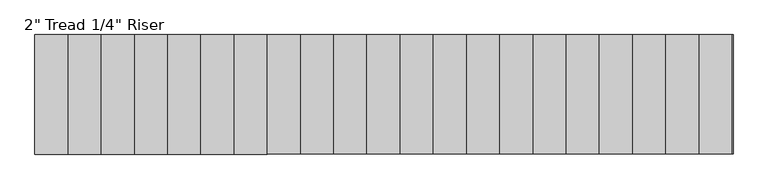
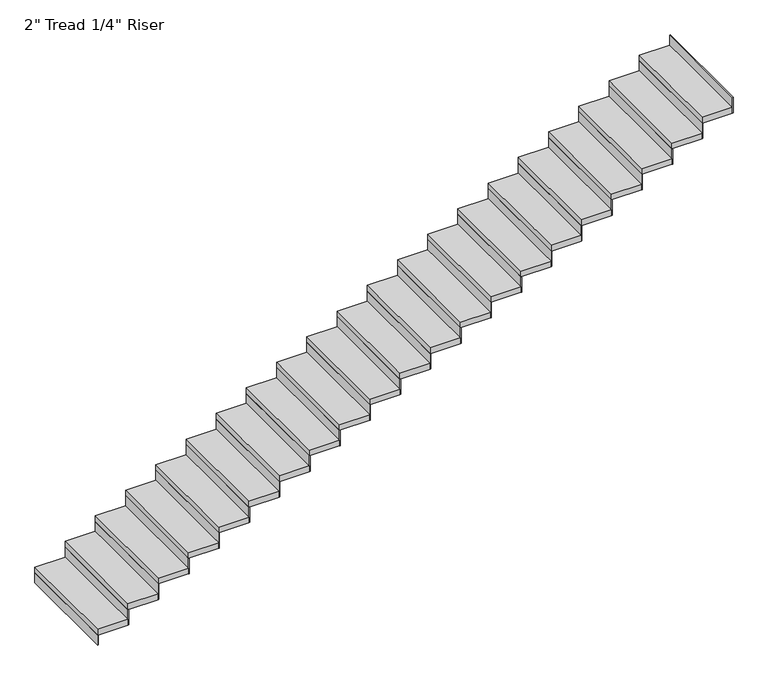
"""IFC4 building model written with IfcOpenShell, lengths in millimetres: stair flight geometry."""

from ifc_helpers import new_model, si_unit, frame, origin, origin_with_axes, place, context, project, spatial, polyline, outline, extrude, source, transform, mapped, element, save


def stair_flight_8a9467b6(model_context):
    return source(origin(), model_context, "Body", "SweptSolid", [
        extrude(outline(polyline([(-14491.9069957, 52176.6739583), (-14498.2569957, 52176.6739583), (-14498.2569957, 53091.0739583), (-14491.9069957, 53091.0739583), (-14491.9069957, 52176.6739583)])), origin_with_axes(), (0.0, 0.0, 1.0), 87.7454545),
        extrude(outline(polyline([(-14244.2569957, 53091.0739583), (-14244.2569957, 52176.6739583), (-14498.2569957, 52176.6739583), (-14498.2569957, 53091.0739583), (-14244.2569957, 53091.0739583)])), frame((0.0, 0.0, 87.7454545), z_axis=(0.0, 0.0, 1.0), x_axis=(1.0, 0.0, 0.0)), (0.0, 0.0, 1.0), 50.8),
        extrude(outline(polyline([(-14237.9069957, 52176.6739583), (-14244.2569957, 52176.6739583), (-14244.2569957, 53091.0739583), (-14237.9069957, 53091.0739583), (-14237.9069957, 52176.6739583)])), frame((0.0, 0.0, 87.7454545), z_axis=(0.0, 0.0, 1.0), x_axis=(1.0, 0.0, 0.0)), (0.0, 0.0, 1.0), 138.5454545),
        extrude(outline(polyline([(-13990.2569957, 53091.0739583), (-13990.2569957, 52176.6739583), (-14244.2569957, 52176.6739583), (-14244.2569957, 53091.0739583), (-13990.2569957, 53091.0739583)])), frame((0.0, 0.0, 226.2909091), z_axis=(0.0, 0.0, 1.0), x_axis=(1.0, 0.0, 0.0)), (0.0, 0.0, 1.0), 50.8),
        extrude(outline(polyline([(-13983.9069957, 52176.6739583), (-13990.2569957, 52176.6739583), (-13990.2569957, 53091.0739583), (-13983.9069957, 53091.0739583), (-13983.9069957, 52176.6739583)])), frame((0.0, 0.0, 226.2909091), z_axis=(0.0, 0.0, 1.0), x_axis=(1.0, 0.0, 0.0)), (0.0, 0.0, 1.0), 138.5454545),
        extrude(outline(polyline([(-13736.2569957, 53091.0739583), (-13736.2569957, 52176.6739583), (-13990.2569957, 52176.6739583), (-13990.2569957, 53091.0739583), (-13736.2569957, 53091.0739583)])), frame((0.0, 0.0, 364.8363636), z_axis=(0.0, 0.0, 1.0), x_axis=(1.0, 0.0, 0.0)), (0.0, 0.0, 1.0), 50.8),
        extrude(outline(polyline([(-13729.9069957, 52176.6739583), (-13736.2569957, 52176.6739583), (-13736.2569957, 53091.0739583), (-13729.9069957, 53091.0739583), (-13729.9069957, 52176.6739583)])), frame((0.0, 0.0, 364.8363636), z_axis=(0.0, 0.0, 1.0), x_axis=(1.0, 0.0, 0.0)), (0.0, 0.0, 1.0), 138.5454545),
        extrude(outline(polyline([(-13482.2569957, 53091.0739583), (-13482.2569957, 52176.6739583), (-13736.2569957, 52176.6739583), (-13736.2569957, 53091.0739583), (-13482.2569957, 53091.0739583)])), frame((0.0, 0.0, 503.3818182), z_axis=(0.0, 0.0, 1.0), x_axis=(1.0, 0.0, 0.0)), (0.0, 0.0, 1.0), 50.8),
        extrude(outline(polyline([(-13475.9069957, 52176.6739583), (-13482.2569957, 52176.6739583), (-13482.2569957, 53091.0739583), (-13475.9069957, 53091.0739583), (-13475.9069957, 52176.6739583)])), frame((0.0, 0.0, 503.3818182), z_axis=(0.0, 0.0, 1.0), x_axis=(1.0, 0.0, 0.0)), (0.0, 0.0, 1.0), 138.5454545),
        extrude(outline(polyline([(-13228.2569957, 53091.0739583), (-13228.2569957, 52176.6739583), (-13482.2569957, 52176.6739583), (-13482.2569957, 53091.0739583), (-13228.2569957, 53091.0739583)])), frame((0.0, 0.0, 641.9272727), z_axis=(0.0, 0.0, 1.0), x_axis=(1.0, 0.0, 0.0)), (0.0, 0.0, 1.0), 50.8),
        extrude(outline(polyline([(-13221.9069957, 52176.6739583), (-13228.2569957, 52176.6739583), (-13228.2569957, 53091.0739583), (-13221.9069957, 53091.0739583), (-13221.9069957, 52176.6739583)])), frame((0.0, 0.0, 641.9272727), z_axis=(0.0, 0.0, 1.0), x_axis=(1.0, 0.0, 0.0)), (0.0, 0.0, 1.0), 138.5454545),
        extrude(outline(polyline([(-12974.2569957, 53091.0739583), (-12974.2569957, 52176.6739583), (-13228.2569957, 52176.6739583), (-13228.2569957, 53091.0739583), (-12974.2569957, 53091.0739583)])), frame((0.0, 0.0, 780.4727273), z_axis=(0.0, 0.0, 1.0), x_axis=(1.0, 0.0, 0.0)), (0.0, 0.0, 1.0), 50.8),
        extrude(outline(polyline([(-12967.9069957, 52176.6739583), (-12974.2569957, 52176.6739583), (-12974.2569957, 53091.0739583), (-12967.9069957, 53091.0739583), (-12967.9069957, 52176.6739583)])), frame((0.0, 0.0, 780.4727273), z_axis=(0.0, 0.0, 1.0), x_axis=(1.0, 0.0, 0.0)), (0.0, 0.0, 1.0), 138.5454545),
        extrude(outline(polyline([(-12720.2569957, 53091.0739583), (-12720.2569957, 52176.6739583), (-12974.2569957, 52176.6739583), (-12974.2569957, 53091.0739583), (-12720.2569957, 53091.0739583)])), frame((0.0, 0.0, 919.0181818), z_axis=(0.0, 0.0, 1.0), x_axis=(1.0, 0.0, 0.0)), (0.0, 0.0, 1.0), 50.8),
        extrude(outline(polyline([(-12713.9069957, 52176.6739583), (-12720.2569957, 52176.6739583), (-12720.2569957, 53091.0739583), (-12713.9069957, 53091.0739583), (-12713.9069957, 52176.6739583)])), frame((0.0, 0.0, 919.0181818), z_axis=(0.0, 0.0, 1.0), x_axis=(1.0, 0.0, 0.0)), (0.0, 0.0, 1.0), 138.5454545),
        extrude(outline(polyline([(-12466.2569957, 53091.0739583), (-12466.2569957, 52176.6739583), (-12720.2569957, 52176.6739583), (-12720.2569957, 53091.0739583), (-12466.2569957, 53091.0739583)])), frame((0.0, 0.0, 1057.5636364), z_axis=(0.0, 0.0, 1.0), x_axis=(1.0, 0.0, 0.0)), (0.0, 0.0, 1.0), 50.8),
        extrude(outline(polyline([(-12459.9069957, 52176.6739583), (-12466.2569957, 52176.6739583), (-12466.2569957, 53091.0739583), (-12459.9069957, 53091.0739583), (-12459.9069957, 52176.6739583)])), frame((0.0, 0.0, 1057.5636364), z_axis=(0.0, 0.0, 1.0), x_axis=(1.0, 0.0, 0.0)), (0.0, 0.0, 1.0), 138.5454545),
        extrude(outline(polyline([(-12212.2569957, 53091.0739583), (-12212.2569957, 52176.6739583), (-12466.2569957, 52176.6739583), (-12466.2569957, 53091.0739583), (-12212.2569957, 53091.0739583)])), frame((0.0, 0.0, 1196.1090909), z_axis=(0.0, 0.0, 1.0), x_axis=(1.0, 0.0, 0.0)), (0.0, 0.0, 1.0), 50.8),
        extrude(outline(polyline([(-12205.9069957, 52176.6739583), (-12212.2569957, 52176.6739583), (-12212.2569957, 53091.0739583), (-12205.9069957, 53091.0739583), (-12205.9069957, 52176.6739583)])), frame((0.0, 0.0, 1196.1090909), z_axis=(0.0, 0.0, 1.0), x_axis=(1.0, 0.0, 0.0)), (0.0, 0.0, 1.0), 138.5454545),
        extrude(outline(polyline([(-11958.2569957, 53091.0739583), (-11958.2569957, 52176.6739583), (-12212.2569957, 52176.6739583), (-12212.2569957, 53091.0739583), (-11958.2569957, 53091.0739583)])), frame((0.0, 0.0, 1334.6545455), z_axis=(0.0, 0.0, 1.0), x_axis=(1.0, 0.0, 0.0)), (0.0, 0.0, 1.0), 50.8),
        extrude(outline(polyline([(-11951.9069957, 52176.6739583), (-11958.2569957, 52176.6739583), (-11958.2569957, 53091.0739583), (-11951.9069957, 53091.0739583), (-11951.9069957, 52176.6739583)])), frame((0.0, 0.0, 1334.6545455), z_axis=(0.0, 0.0, 1.0), x_axis=(1.0, 0.0, 0.0)), (0.0, 0.0, 1.0), 138.5454545),
        extrude(outline(polyline([(-11704.2569957, 53091.0739583), (-11704.2569957, 52176.6739583), (-11958.2569957, 52176.6739583), (-11958.2569957, 53091.0739583), (-11704.2569957, 53091.0739583)])), frame((0.0, 0.0, 1473.2), z_axis=(0.0, 0.0, 1.0), x_axis=(1.0, 0.0, 0.0)), (0.0, 0.0, 1.0), 50.8),
        extrude(outline(polyline([(-11697.9069957, 52176.6739583), (-11704.2569957, 52176.6739583), (-11704.2569957, 53091.0739583), (-11697.9069957, 53091.0739583), (-11697.9069957, 52176.6739583)])), frame((0.0, 0.0, 1473.2), z_axis=(0.0, 0.0, 1.0), x_axis=(1.0, 0.0, 0.0)), (0.0, 0.0, 1.0), 138.5454545),
        extrude(outline(polyline([(-11450.2569957, 53091.0739583), (-11450.2569957, 52176.6739583), (-11704.2569957, 52176.6739583), (-11704.2569957, 53091.0739583), (-11450.2569957, 53091.0739583)])), frame((0.0, 0.0, 1611.7454545), z_axis=(0.0, 0.0, 1.0), x_axis=(1.0, 0.0, 0.0)), (0.0, 0.0, 1.0), 50.8),
        extrude(outline(polyline([(-11443.9069957, 52176.6739583), (-11450.2569957, 52176.6739583), (-11450.2569957, 53091.0739583), (-11443.9069957, 53091.0739583), (-11443.9069957, 52176.6739583)])), frame((0.0, 0.0, 1611.7454545), z_axis=(0.0, 0.0, 1.0), x_axis=(1.0, 0.0, 0.0)), (0.0, 0.0, 1.0), 138.5454545),
        extrude(outline(polyline([(-11196.2569957, 53091.0739583), (-11196.2569957, 52176.6739583), (-11450.2569957, 52176.6739583), (-11450.2569957, 53091.0739583), (-11196.2569957, 53091.0739583)])), frame((0.0, 0.0, 1750.2909091), z_axis=(0.0, 0.0, 1.0), x_axis=(1.0, 0.0, 0.0)), (0.0, 0.0, 1.0), 50.8),
        extrude(outline(polyline([(-11189.9069957, 52176.6739583), (-11196.2569957, 52176.6739583), (-11196.2569957, 53091.0739583), (-11189.9069957, 53091.0739583), (-11189.9069957, 52176.6739583)])), frame((0.0, 0.0, 1750.2909091), z_axis=(0.0, 0.0, 1.0), x_axis=(1.0, 0.0, 0.0)), (0.0, 0.0, 1.0), 138.5454545),
        extrude(outline(polyline([(-10942.2569957, 53091.0739583), (-10942.2569957, 52176.6739583), (-11196.2569957, 52176.6739583), (-11196.2569957, 53091.0739583), (-10942.2569957, 53091.0739583)])), frame((0.0, 0.0, 1888.8363636), z_axis=(0.0, 0.0, 1.0), x_axis=(1.0, 0.0, 0.0)), (0.0, 0.0, 1.0), 50.8),
        extrude(outline(polyline([(-10935.9069957, 52176.6739583), (-10942.2569957, 52176.6739583), (-10942.2569957, 53091.0739583), (-10935.9069957, 53091.0739583), (-10935.9069957, 52176.6739583)])), frame((0.0, 0.0, 1888.8363636), z_axis=(0.0, 0.0, 1.0), x_axis=(1.0, 0.0, 0.0)), (0.0, 0.0, 1.0), 138.5454545),
        extrude(outline(polyline([(-10688.2569957, 53091.0739583), (-10688.2569957, 52176.6739583), (-10942.2569957, 52176.6739583), (-10942.2569957, 53091.0739583), (-10688.2569957, 53091.0739583)])), frame((0.0, 0.0, 2027.3818182), z_axis=(0.0, 0.0, 1.0), x_axis=(1.0, 0.0, 0.0)), (0.0, 0.0, 1.0), 50.8),
        extrude(outline(polyline([(-10681.9069957, 52176.6739583), (-10688.2569957, 52176.6739583), (-10688.2569957, 53091.0739583), (-10681.9069957, 53091.0739583), (-10681.9069957, 52176.6739583)])), frame((0.0, 0.0, 2027.3818182), z_axis=(0.0, 0.0, 1.0), x_axis=(1.0, 0.0, 0.0)), (0.0, 0.0, 1.0), 138.5454545),
        extrude(outline(polyline([(-10434.2569957, 53091.0739583), (-10434.2569957, 52176.6739583), (-10688.2569957, 52176.6739583), (-10688.2569957, 53091.0739583), (-10434.2569957, 53091.0739583)])), frame((0.0, 0.0, 2165.9272727), z_axis=(0.0, 0.0, 1.0), x_axis=(1.0, 0.0, 0.0)), (0.0, 0.0, 1.0), 50.8),
        extrude(outline(polyline([(-10427.9069957, 52176.6739583), (-10434.2569957, 52176.6739583), (-10434.2569957, 53091.0739583), (-10427.9069957, 53091.0739583), (-10427.9069957, 52176.6739583)])), frame((0.0, 0.0, 2165.9272727), z_axis=(0.0, 0.0, 1.0), x_axis=(1.0, 0.0, 0.0)), (0.0, 0.0, 1.0), 138.5454545),
        extrude(outline(polyline([(-10180.2569957, 53091.0739583), (-10180.2569957, 52176.6739583), (-10434.2569957, 52176.6739583), (-10434.2569957, 53091.0739583), (-10180.2569957, 53091.0739583)])), frame((0.0, 0.0, 2304.4727273), z_axis=(0.0, 0.0, 1.0), x_axis=(1.0, 0.0, 0.0)), (0.0, 0.0, 1.0), 50.8),
        extrude(outline(polyline([(-10173.9069957, 52176.6739583), (-10180.2569957, 52176.6739583), (-10180.2569957, 53091.0739583), (-10173.9069957, 53091.0739583), (-10173.9069957, 52176.6739583)])), frame((0.0, 0.0, 2304.4727273), z_axis=(0.0, 0.0, 1.0), x_axis=(1.0, 0.0, 0.0)), (0.0, 0.0, 1.0), 138.5454545),
        extrude(outline(polyline([(-9926.2569957, 53091.0739583), (-9926.2569957, 52176.6739583), (-10180.2569957, 52176.6739583), (-10180.2569957, 53091.0739583), (-9926.2569957, 53091.0739583)])), frame((0.0, 0.0, 2443.0181818), z_axis=(0.0, 0.0, 1.0), x_axis=(1.0, 0.0, 0.0)), (0.0, 0.0, 1.0), 50.8),
        extrude(outline(polyline([(-9919.9069957, 52176.6739583), (-9926.2569957, 52176.6739583), (-9926.2569957, 53091.0739583), (-9919.9069957, 53091.0739583), (-9919.9069957, 52176.6739583)])), frame((0.0, 0.0, 2443.0181818), z_axis=(0.0, 0.0, 1.0), x_axis=(1.0, 0.0, 0.0)), (0.0, 0.0, 1.0), 138.5454545),
        extrude(outline(polyline([(-9672.2569957, 53091.0739583), (-9672.2569957, 52176.6739583), (-9926.2569957, 52176.6739583), (-9926.2569957, 53091.0739583), (-9672.2569957, 53091.0739583)])), frame((0.0, 0.0, 2581.5636364), z_axis=(0.0, 0.0, 1.0), x_axis=(1.0, 0.0, 0.0)), (0.0, 0.0, 1.0), 50.8),
        extrude(outline(polyline([(-9665.9069957, 52176.6739583), (-9672.2569957, 52176.6739583), (-9672.2569957, 53091.0739583), (-9665.9069957, 53091.0739583), (-9665.9069957, 52176.6739583)])), frame((0.0, 0.0, 2581.5636364), z_axis=(0.0, 0.0, 1.0), x_axis=(1.0, 0.0, 0.0)), (0.0, 0.0, 1.0), 138.5454545),
        extrude(outline(polyline([(-9418.2569957, 53091.0739583), (-9418.2569957, 52176.6739583), (-9672.2569957, 52176.6739583), (-9672.2569957, 53091.0739583), (-9418.2569957, 53091.0739583)])), frame((0.0, 0.0, 2720.1090909), z_axis=(0.0, 0.0, 1.0), x_axis=(1.0, 0.0, 0.0)), (0.0, 0.0, 1.0), 50.8),
        extrude(outline(polyline([(-9411.9069957, 52176.6739583), (-9418.2569957, 52176.6739583), (-9418.2569957, 53091.0739583), (-9411.9069957, 53091.0739583), (-9411.9069957, 52176.6739583)])), frame((0.0, 0.0, 2720.1090909), z_axis=(0.0, 0.0, 1.0), x_axis=(1.0, 0.0, 0.0)), (0.0, 0.0, 1.0), 138.5454545),
        extrude(outline(polyline([(-9157.9069957, 52176.6739583), (-9164.2569957, 52176.6739583), (-9164.2569957, 53091.0739583), (-9157.9069957, 53091.0739583), (-9157.9069957, 52176.6739583)])), frame((0.0, 0.0, 2858.6545455), z_axis=(0.0, 0.0, 1.0), x_axis=(1.0, 0.0, 0.0)), (0.0, 0.0, 1.0), 138.5454545),
        extrude(outline(polyline([(-9164.2569957, 53091.0739583), (-9164.2569957, 52176.6739583), (-9418.2569957, 52176.6739583), (-9418.2569957, 53091.0739583), (-9164.2569957, 53091.0739583)])), frame((0.0, 0.0, 2858.6545455), z_axis=(0.0, 0.0, 1.0), x_axis=(1.0, 0.0, 0.0)), (0.0, 0.0, 1.0), 50.8),
    ])


if __name__ == "__main__":
    model = new_model("IFC4")
    model_context = context("Model", 3, world=origin())
    ifc_project = project(units=[si_unit("LENGTHUNIT", "METRE", prefix="MILLI")], contexts=[model_context])
    site = spatial("IfcSite", under=ifc_project)
    building = spatial("IfcBuilding", under=site)
    placement = place(None, origin())
    stair_flight_shape = stair_flight_8a9467b6(model_context)
    element("IfcStairFlight", 1, ObjectType="2\" Tread 1/4\" Riser", at=placement, inside=building, context=model_context, shape_type="MappedRepresentation", body=[
        mapped(stair_flight_shape, transform((0.0, 0.0, 0.0), x_axis=(1.0, 0.0, 0.0), y_axis=(0.0, 1.0, 0.0), z_axis=(0.0, 0.0, 1.0))),
    ])
    save(model, "model.ifc")
